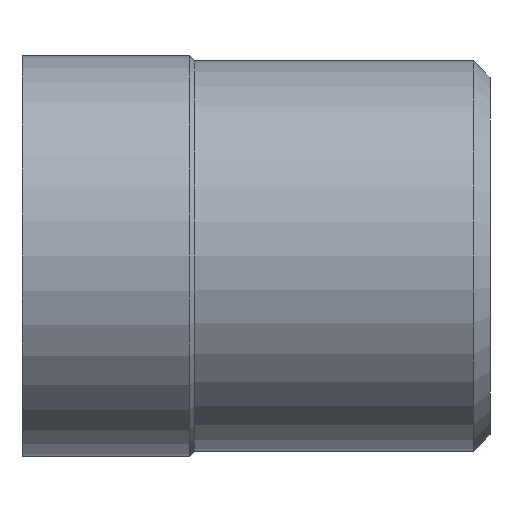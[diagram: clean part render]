
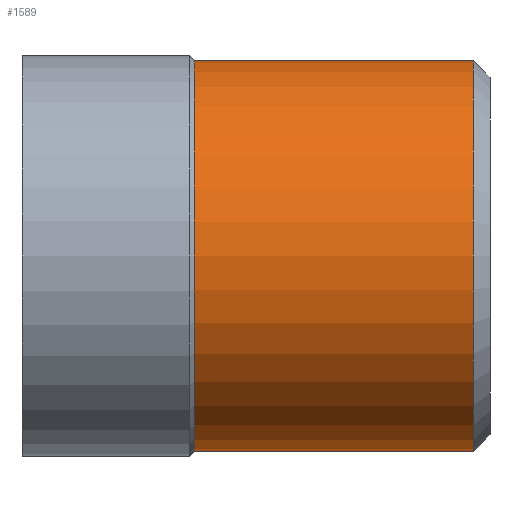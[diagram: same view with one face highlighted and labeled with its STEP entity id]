
A CAD part, left-side view. The second image highlights one B-rep face of the part: STEP entity #1589.
In plain terms, the highlighted cylindrical face has radius 5.85 mm (diameter 11.7 mm), a partial arc.
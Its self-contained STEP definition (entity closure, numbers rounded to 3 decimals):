
#213 = ORIENTED_EDGE ( 'NONE', *, *, #577, .T. ) ;
#227 = EDGE_CURVE ( 'NONE', #617, #2356, #930, .T. ) ;
#244 = CARTESIAN_POINT ( 'NONE',  ( 0., -5.15, 0. ) ) ;
#435 = CARTESIAN_POINT ( 'NONE',  ( 0., 3.29, 5.85 ) ) ;
#456 = EDGE_LOOP ( 'NONE', ( #2440, #2830, #213, #2166 ) ) ;
#577 = EDGE_CURVE ( 'NONE', #2356, #1563, #3150, .T. ) ;
#617 = VERTEX_POINT ( 'NONE', #2203 ) ;
#632 = CARTESIAN_POINT ( 'NONE',  ( 0., -5.15, 5.85 ) ) ;
#634 = FACE_OUTER_BOUND ( 'NONE', #456, .T. ) ;
#687 = AXIS2_PLACEMENT_3D ( 'NONE', #1169, #2013, #3003 ) ;
#757 = LINE ( 'NONE', #1276, #2643 ) ;
#763 = EDGE_CURVE ( 'NONE', #617, #2818, #757, .T. ) ;
#886 = CARTESIAN_POINT ( 'NONE',  ( 0., -13.5, 5.85 ) ) ;
#930 = CIRCLE ( 'NONE', #1742, 5.85 ) ;
#952 = DIRECTION ( 'NONE',  ( 0., 1., 0. ) ) ;
#1169 = CARTESIAN_POINT ( 'NONE',  ( 0., 3.29, 0. ) ) ;
#1276 = CARTESIAN_POINT ( 'NONE',  ( 0., 3.29, -5.85 ) ) ;
#1505 = DIRECTION ( 'NONE',  ( 0., 0., 1. ) ) ;
#1521 = CIRCLE ( 'NONE', #3117, 5.85 ) ;
#1563 = VERTEX_POINT ( 'NONE', #632 ) ;
#1589 = ADVANCED_FACE ( 'NONE', ( #634 ), #2930, .T. ) ;
#1742 = AXIS2_PLACEMENT_3D ( 'NONE', #2570, #2546, #2524 ) ;
#2013 = DIRECTION ( 'NONE',  ( 0., 1., 0. ) ) ;
#2166 = ORIENTED_EDGE ( 'NONE', *, *, #2771, .F. ) ;
#2203 = CARTESIAN_POINT ( 'NONE',  ( 0., -13.5, -5.85 ) ) ;
#2356 = VERTEX_POINT ( 'NONE', #886 ) ;
#2440 = ORIENTED_EDGE ( 'NONE', *, *, #763, .F. ) ;
#2459 = CARTESIAN_POINT ( 'NONE',  ( 0., -5.15, -5.85 ) ) ;
#2516 = VECTOR ( 'NONE', #952, 1000. ) ;
#2524 = DIRECTION ( 'NONE',  ( 0., 0., 1. ) ) ;
#2546 = DIRECTION ( 'NONE',  ( 0., 1., 0. ) ) ;
#2570 = CARTESIAN_POINT ( 'NONE',  ( 0., -13.5, 0. ) ) ;
#2643 = VECTOR ( 'NONE', #2732, 1000. ) ;
#2697 = DIRECTION ( 'NONE',  ( 0., 1., 0. ) ) ;
#2732 = DIRECTION ( 'NONE',  ( 0., 1., 0. ) ) ;
#2771 = EDGE_CURVE ( 'NONE', #2818, #1563, #1521, .T. ) ;
#2818 = VERTEX_POINT ( 'NONE', #2459 ) ;
#2830 = ORIENTED_EDGE ( 'NONE', *, *, #227, .T. ) ;
#2930 = CYLINDRICAL_SURFACE ( 'NONE', #687, 5.85 ) ;
#3003 = DIRECTION ( 'NONE',  ( 0., 0., 1. ) ) ;
#3117 = AXIS2_PLACEMENT_3D ( 'NONE', #244, #2697, #1505 ) ;
#3150 = LINE ( 'NONE', #435, #2516 ) ;
